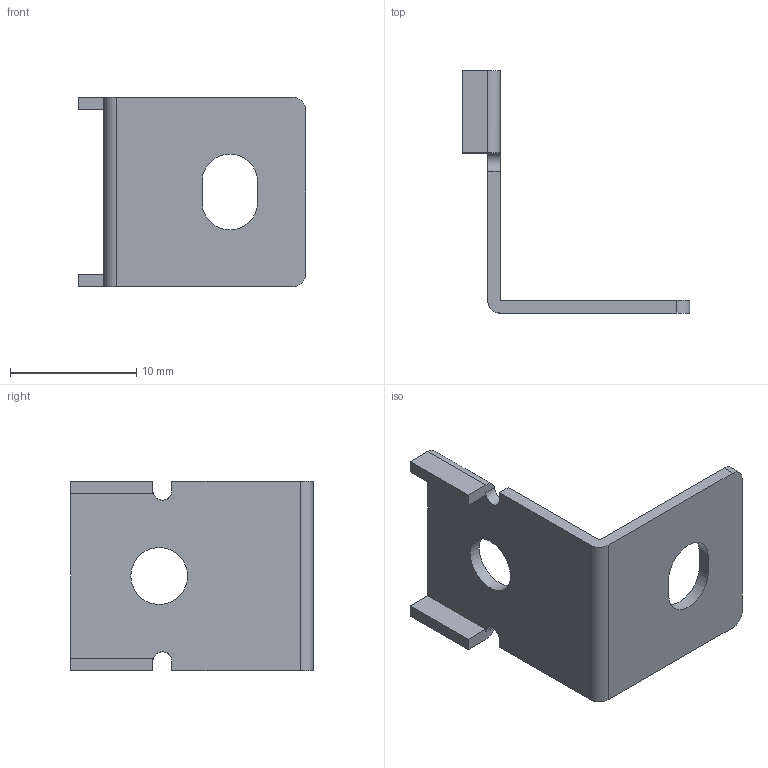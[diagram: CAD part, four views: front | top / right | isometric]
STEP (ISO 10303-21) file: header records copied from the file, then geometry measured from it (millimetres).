
FILE_DESCRIPTION((''),'2;1');
FILE_NAME('W:\mechanical\機構工程圖\3D圖檔\3D Outline-2020\已完成待審核\MHS012.stp','2020-06-18T18:52:56',('shirley'),(''),'Autodesk Inventor 2010','Autodesk Inventor 2010','');
FILE_SCHEMA(('AUTOMOTIVE_DESIGN { 1 0 10303 214 1 1 1 1 }'));
Length unit declared in the file: millimetre
Products named in the file (1): MHS012
Bounding box: 18 x 19.2 x 15 mm (x, y, z)
Volume: 490.4 mm3; surface area: 1120.2 mm2
Topology: 1 solids, 1 shells, 31 faces, 87 edges, 58 vertices
Faces by surface type: plane 20, cylinder 11
Full cylindrical faces by diameter (mm): 4.5 x1
Entity records: 1034 total; most frequent: CARTESIAN_POINT 182, ORIENTED_EDGE 172, DIRECTION 170, EDGE_CURVE 86, VECTOR 62, LINE 62, VERTEX_POINT 58, AXIS2_PLACEMENT_3D 54
